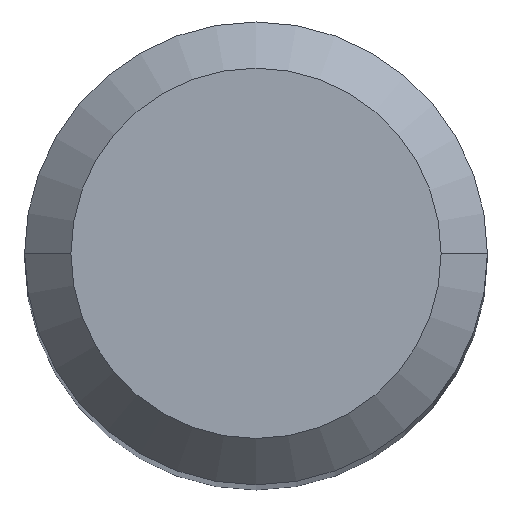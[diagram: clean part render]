
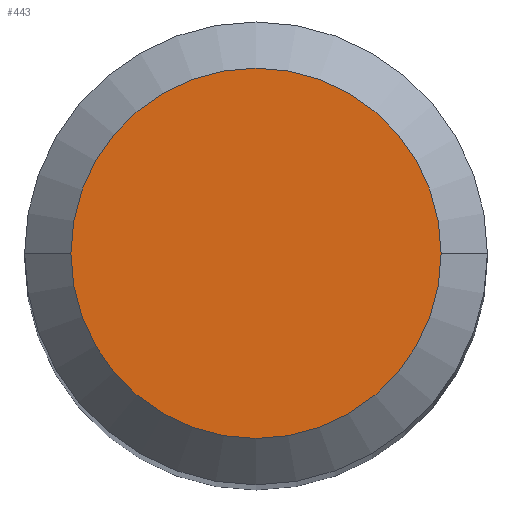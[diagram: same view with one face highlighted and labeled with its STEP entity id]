
A CAD part, top view. The second image highlights one B-rep face of the part: STEP entity #443.
In plain terms, the highlighted planar face has unit normal (0, 0, 1).
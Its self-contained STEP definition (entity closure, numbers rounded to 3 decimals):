
#21 = EDGE_LOOP ( 'NONE', ( #352, #481 ) ) ;
#110 = EDGE_CURVE ( 'NONE', #289, #266, #268, .T. ) ;
#124 = AXIS2_PLACEMENT_3D ( 'NONE', #403, #602, #160 ) ;
#130 = DIRECTION ( 'NONE',  ( -1., 0., 0. ) ) ;
#151 = CIRCLE ( 'NONE', #585, 2.4 ) ;
#156 = FACE_OUTER_BOUND ( 'NONE', #21, .T. ) ;
#160 = DIRECTION ( 'NONE',  ( -1., 0., 0. ) ) ;
#197 = DIRECTION ( 'NONE',  ( 1., 0., 0. ) ) ;
#266 = VERTEX_POINT ( 'NONE', #451 ) ;
#268 = CIRCLE ( 'NONE', #124, 2.4 ) ;
#289 = VERTEX_POINT ( 'NONE', #491 ) ;
#310 = CARTESIAN_POINT ( 'NONE',  ( 0., 2.4, 0. ) ) ;
#349 = DIRECTION ( 'NONE',  ( 0., 0., 1. ) ) ;
#352 = ORIENTED_EDGE ( 'NONE', *, *, #110, .F. ) ;
#387 = DIRECTION ( 'NONE',  ( 0., 0., -1. ) ) ;
#403 = CARTESIAN_POINT ( 'NONE',  ( 0., 0., 0. ) ) ;
#443 = ADVANCED_FACE ( 'NONE', ( #156 ), #558, .T. ) ;
#451 = CARTESIAN_POINT ( 'NONE',  ( 2.4, 0., 0. ) ) ;
#481 = ORIENTED_EDGE ( 'NONE', *, *, #507, .F. ) ;
#491 = CARTESIAN_POINT ( 'NONE',  ( -2.4, 0., 0. ) ) ;
#507 = EDGE_CURVE ( 'NONE', #266, #289, #151, .T. ) ;
#558 = PLANE ( 'NONE',  #601 ) ;
#585 = AXIS2_PLACEMENT_3D ( 'NONE', #621, #387, #130 ) ;
#601 = AXIS2_PLACEMENT_3D ( 'NONE', #310, #349, #197 ) ;
#602 = DIRECTION ( 'NONE',  ( 0., 0., -1. ) ) ;
#621 = CARTESIAN_POINT ( 'NONE',  ( 0., 0., 0. ) ) ;
